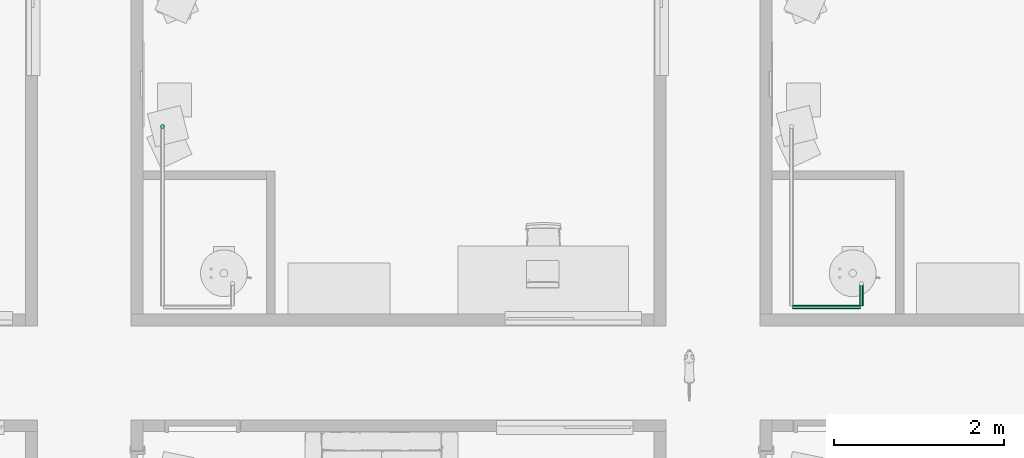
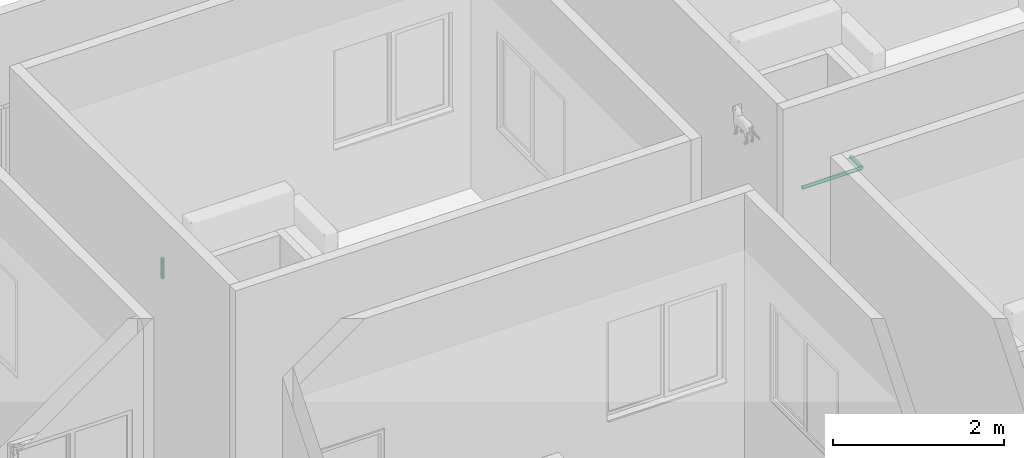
# One storey, part 47 of 69: 3 pipe segments.
"""IFC4 building model written with IfcOpenShell, lengths in centimetres."""

from ifc_helpers import new_model, entity, si_unit, converted_unit, derived_unit, direction, frame, origin, place, context, subcontext, project, spatial, arc, indexed_curve, outline, extrude, type_object, element, save


model = new_model("IFC4")

# Units and contexts
model_context = context("Model", 3, precision=0.001, world=origin(), true_north=direction((6.123233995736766e-17, 1.0)))
body_context = subcontext(model_context, "Body", "Model", "MODEL_VIEW")
ifc_project = project(units=[si_unit("LENGTHUNIT", "METRE", prefix="CENTI"), si_unit("AREAUNIT", "SQUARE_METRE"), si_unit("VOLUMEUNIT", "CUBIC_METRE"), derived_unit("THERMALTRANSMITTANCEUNIT", [(si_unit("MASSUNIT", "GRAM", prefix="KILO"), 1), (si_unit("THERMODYNAMICTEMPERATUREUNIT", "KELVIN"), -1), (si_unit("TIMEUNIT", "SECOND"), -3)]), converted_unit("PLANEANGLEUNIT", "DEGREE", entity("IfcPlaneAngleMeasure", 0.017453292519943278), si_unit("PLANEANGLEUNIT", "RADIAN"), dimensions=[0, 0, 0, 0, 0, 0, 0]), derived_unit("MASSDENSITYUNIT", [(si_unit("MASSUNIT", "GRAM", prefix="KILO"), 1), (si_unit("LENGTHUNIT", "METRE"), -3)]), derived_unit("VAPORPERMEABILITYUNIT", [(si_unit("LENGTHUNIT", "METRE"), -1), (si_unit("TIMEUNIT", "SECOND"), 1)]), derived_unit("USERDEFINED", [(si_unit("MASSUNIT", "GRAM", prefix="KILO"), 1), (si_unit("TIMEUNIT", "SECOND"), -3), (si_unit("LENGTHUNIT", "METRE"), 3), (si_unit("ELECTRICCURRENTUNIT", "AMPERE"), -2)]), derived_unit("SPECIFICHEATCAPACITYUNIT", [(si_unit("THERMODYNAMICTEMPERATUREUNIT", "KELVIN"), -1), (si_unit("LENGTHUNIT", "METRE"), 2), (si_unit("TIMEUNIT", "SECOND"), -2)]), derived_unit("THERMALCONDUCTANCEUNIT", [(si_unit("MASSUNIT", "GRAM", prefix="KILO"), 1), (si_unit("THERMODYNAMICTEMPERATUREUNIT", "KELVIN"), -1), (si_unit("TIMEUNIT", "SECOND"), -3), (si_unit("LENGTHUNIT", "METRE"), 1)]), si_unit("PRESSUREUNIT", "PASCAL"), derived_unit("MODULUSOFELASTICITYUNIT", [(si_unit("MASSUNIT", "GRAM", prefix="KILO"), 1), (si_unit("LENGTHUNIT", "METRE"), -1), (si_unit("TIMEUNIT", "SECOND"), -2)]), derived_unit("THERMALEXPANSIONCOEFFICIENTUNIT", [(si_unit("THERMODYNAMICTEMPERATUREUNIT", "KELVIN"), -1)])], contexts=[model_context])

# Site, building, storey
site_placement = place(None, origin())
site = spatial("IfcSite", under=ifc_project, at=site_placement, Name="Default", CompositionType="ELEMENT")
building_placement = place(site_placement, origin())
building = spatial("IfcBuilding", under=site, at=building_placement, Name="IDS Escape Game Building", CompositionType="ELEMENT")
storey_placement = place(building_placement, origin())
storey = spatial("IfcBuildingStorey", under=building, at=storey_placement, Name="00_Ground Floor", CompositionType="ELEMENT", Elevation=0.0)

# Pipe segments
pipe_segment_type = type_object("IfcPipeSegmentType", Name="Pipe Types:Piping Aluminum", PredefinedType="NOTDEFINED")
pipe_segment_1_placement = place(storey_placement, origin())
element("IfcPipeSegment", 1, at=pipe_segment_1_placement, inside=storey, type_object=pipe_segment_type, Name="Pipe Types:Piping Aluminum", ObjectType="Pipe Types:Piping Aluminum", PredefinedType="NOTDEFINED", context=body_context, shape_type="SweptSolid", body=[
    extrude(outline(indexed_curve([(2.412999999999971, 0.0), (1.7062486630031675, 1.7062486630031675), (0.0, 2.412999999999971), (-1.7062486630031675, 1.7062486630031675), (-2.412999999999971, 0.0), (-1.7062486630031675, -1.7062486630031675), (0.0, -2.412999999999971), (1.7062486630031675, -1.7062486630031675)], segments=[arc(1, 2, 3), arc(3, 4, 5), arc(5, 6, 7), arc(7, 8, 1)], self_intersect=False)), frame((1506.0467168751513, 2785.26482792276, 244.0999999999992), z_axis=(0.0, 0.0, 1.0), x_axis=(-1.0, 0.0, 0.0)), (0.0, 0.0, 1.0), 27.90000000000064),
])
pipe_segment_2_placement = place(storey_placement, origin())
element("IfcPipeSegment", 2, at=pipe_segment_2_placement, inside=storey, type_object=pipe_segment_type, Name="Pipe Types:Piping Aluminum", ObjectType="Pipe Types:Piping Aluminum", PredefinedType="NOTDEFINED", context=body_context, shape_type="SweptSolid", body=[
    extrude(outline(indexed_curve([(2.412999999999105, -2.165734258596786e-13), (1.7062486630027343, 1.7062486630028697), (3.6842275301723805e-29, 2.4130000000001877), (-1.7062486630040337, 1.7062486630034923), (-2.4130000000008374, -1.6243006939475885e-13), (-1.7062486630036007, -1.706248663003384), (-3.684227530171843e-29, -2.412999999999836), (1.706248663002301, -1.7062486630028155)], segments=[arc(1, 2, 3), arc(3, 4, 5), arc(5, 6, 7), arc(7, 8, 1)], self_intersect=False)), frame((2245.1467168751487, 2573.264827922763, 242.0), z_axis=(1.0, 0.0, 0.0), x_axis=(0.0, 1.0, 0.0)), (0.0, 0.0, 1.0), 79.90328312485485),
])
pipe_segment_3_placement = place(storey_placement, origin())
element("IfcPipeSegment", 3, at=pipe_segment_3_placement, inside=storey, type_object=pipe_segment_type, Name="Pipe Types:Piping Aluminum", ObjectType="Pipe Types:Piping Aluminum", PredefinedType="NOTDEFINED", context=body_context, shape_type="SweptSolid", body=[
    extrude(outline(indexed_curve([(2.4129999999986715, -2.7071678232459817e-14), (1.7062486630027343, 1.7062486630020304), (1.7325874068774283e-12, 2.412999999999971), (-1.7062486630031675, 1.7062486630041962), (-2.413000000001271, -2.7071678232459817e-14), (-1.7062486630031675, -1.7062486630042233), (1.7325874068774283e-12, -2.413000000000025), (1.7062486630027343, -1.7062486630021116)], segments=[arc(1, 2, 3), arc(3, 4, 5), arc(5, 6, 7), arc(7, 8, 1)], self_intersect=False)), frame((2326.1500000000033, 2574.364827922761, 242.0), z_axis=(0.0, 1.0, 0.0), x_axis=(-1.0, 0.0, 0.0)), (0.0, 0.0, 1.0), 25.43517207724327),
])

save(model, "model.ifc")
